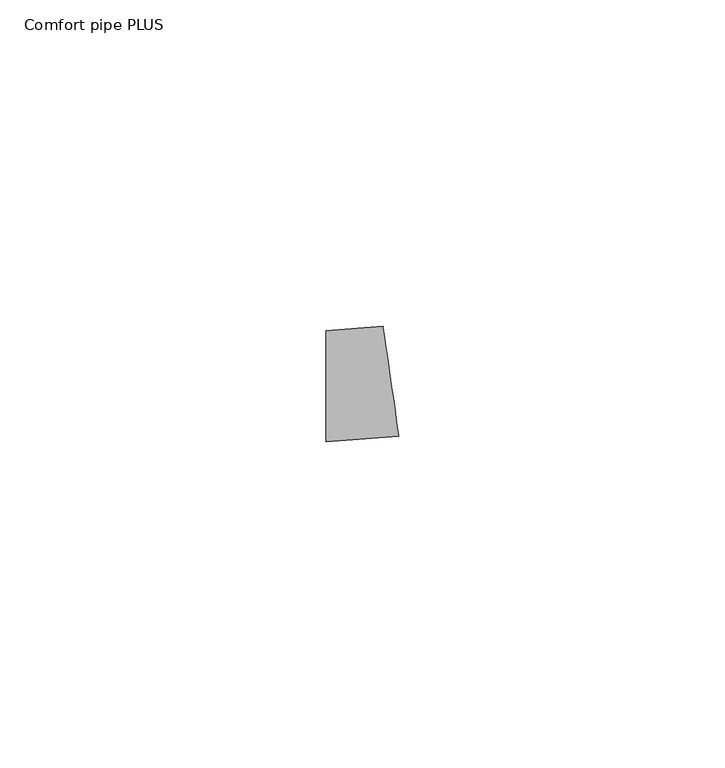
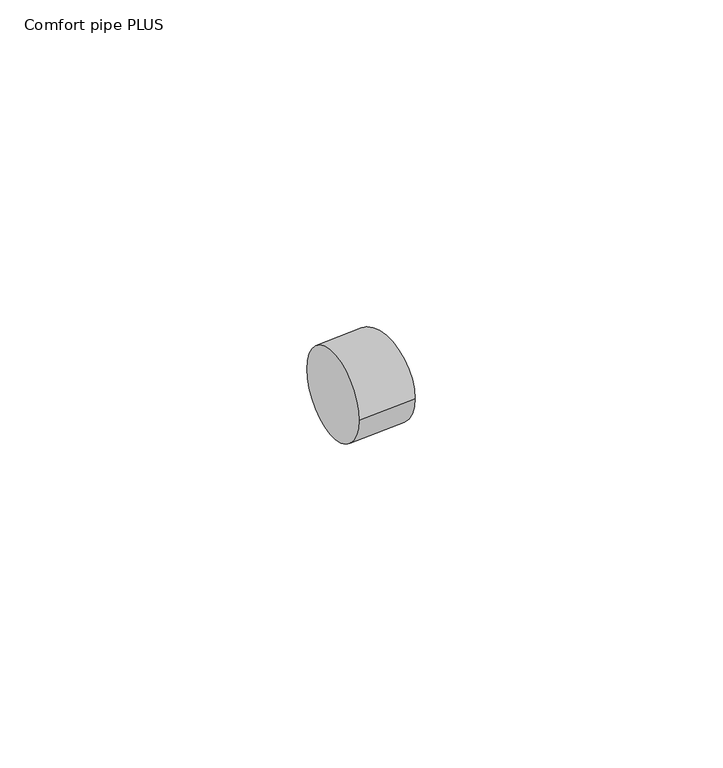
"""IFC4 building model written with IfcOpenShell, lengths in millimetres: pipe fitting geometry, 400_5-_Uponor_curved_Elbow : Comfort pipe PLUS."""

from ifc_helpers import new_model, si_unit, point, frame, origin, place, context, project, spatial, circle_curve, ellipse_curve, trimmed, source, transform, mapped, element, save
from ifc_brep_helpers import plane_surface, revolved_surface, advanced_brep


def comfort_pipe_plus_5c14e1aa(model_context):
    return source(origin(), model_context, "Body", "AdvancedBrep", [
        advanced_brep(
        [(-4.9727832, -8.5, 0.0), (-4.9727832, 8.5, 0.0), (6.1244553, -7.7116548, 0.0), (3.7212316, 9.1176207, 0.0)],
        [
            (0, 1, circle_curve(frame((-4.9727832, 0.0, 0.0), z_axis=(-1.0, 0.0, 0.0), x_axis=(0.0, 1.0, 0.0)), 8.5)),
            (1, 0, circle_curve(frame((-4.9727832, 0.0, 0.0), z_axis=(-1.0, 0.0, 0.0), x_axis=(0.0, 1.0, 0.0)), 8.5)),
            (2, 3, circle_curve(frame((4.9228435, 0.7029829, 0.0), z_axis=(0.9899573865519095, 0.1413660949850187, 0.0), x_axis=(-0.1413660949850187, 0.9899573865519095, 0.0)), 8.5)),
            (3, 2, circle_curve(frame((4.9228435, 0.7029829, 0.0), z_axis=(0.9899573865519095, 0.1413660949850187, 0.0), x_axis=(-0.1413660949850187, 0.9899573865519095, 0.0)), 8.5)),
            (3, 1, circle_curve(frame((-4.9727832, 70.0, 0.0), z_axis=(0.0, 0.0, -1.0), x_axis=(0.0, -1.0, 0.0)), 61.5)),
            (0, 2, circle_curve(frame((-4.9727832, 70.0, 0.0), z_axis=(0.0, 0.0, 1.0), x_axis=(0.0, -1.0, 0.0)), 78.5)),
        ],
        [
            plane_surface(frame((-4.9727832, 0.0, 0.0), z_axis=(-1.0, 0.0, 0.0), x_axis=(0.0, 0.0, 1.0))),
            plane_surface(frame((4.9228435, 0.7029829, 0.0), z_axis=(0.9899573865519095, 0.14136609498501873, 0.0), x_axis=(0.0, 0.0, 1.0))),
            revolved_surface(trimmed(ellipse_curve(frame((-4.9727832, 0.0, 0.0), z_axis=(-1.0, 0.0, 0.0), x_axis=(0.0, 1.0, 0.0)), 8.5, 8.5), [point((-4.9727832, -8.5, 0.0))], [point((-4.9727832, 8.5, 0.0))], True, "CARTESIAN"), (-4.9727832, 70.0, 0.0), (0.0, 0.0, 1.0)),
            revolved_surface(trimmed(ellipse_curve(frame((-4.9727832, 0.0, 0.0), z_axis=(-1.0, 0.0, 0.0), x_axis=(0.0, 1.0, 0.0)), 8.5, 8.5), [point((-4.9727832, 8.5, 0.0))], [point((-4.9727832, -8.5, 0.0))], True, "CARTESIAN"), (-4.9727832, 70.0, 0.0), (0.0, 0.0, 1.0)),
        ],
        [
            (0, [[1, 2]]),
            (1, [[3, 4]]),
            (2, [[5, -1, 6, -4]]),
            (3, [[-6, -2, -5, -3]]),
        ],
    ),
    ])


if __name__ == "__main__":
    model = new_model("IFC4")
    model_context = context("Model", 3, world=origin())
    ifc_project = project(units=[si_unit("LENGTHUNIT", "METRE", prefix="MILLI")], contexts=[model_context])
    site = spatial("IfcSite", under=ifc_project)
    building = spatial("IfcBuilding", under=site)
    placement = place(None, origin())
    comfort_pipe_plus_shape = comfort_pipe_plus_5c14e1aa(model_context)
    element("IfcPipeFitting", 1, ObjectType="400_5-_Uponor_curved_Elbow : Comfort pipe PLUS", at=placement, inside=building, context=model_context, shape_type="MappedRepresentation", body=[
        mapped(comfort_pipe_plus_shape, transform((0.0, 0.0, 0.0), x_axis=(1.0, 0.0, 0.0), y_axis=(0.0, 1.0, 0.0), z_axis=(0.0, 0.0, 1.0))),
    ])
    save(model, "model.ifc")
